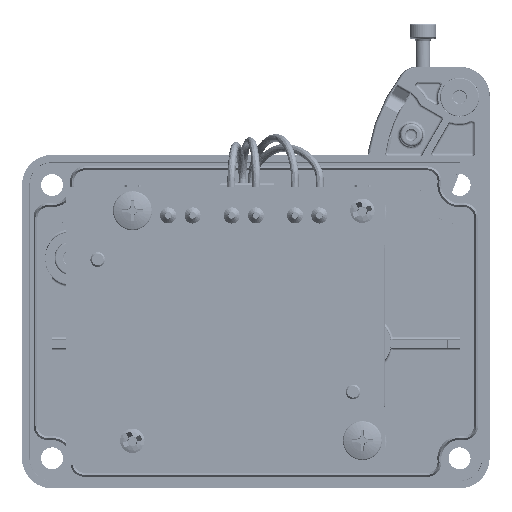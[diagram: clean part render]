
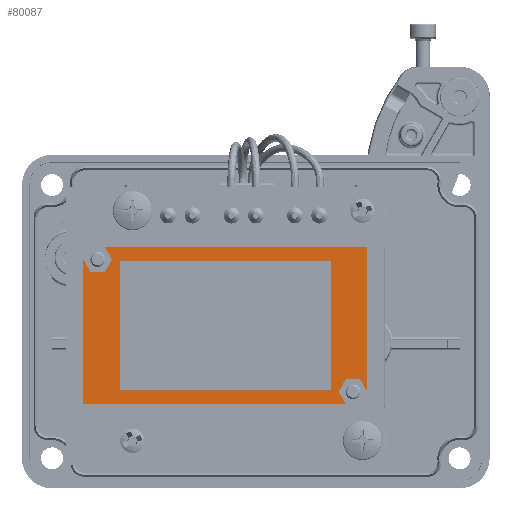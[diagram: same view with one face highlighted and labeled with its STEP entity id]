
A CAD part, top view. The second image highlights one B-rep face of the part: STEP entity #80087.
In plain terms, the highlighted planar face has unit normal (0, 0, 1).
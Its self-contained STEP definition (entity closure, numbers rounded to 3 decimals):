
#880 = LINE ( 'NONE', #261141, #260054 ) ;
#4415 = DIRECTION ( 'NONE',  ( 0.5, -0.866, 0. ) ) ;
#4665 = ORIENTED_EDGE ( 'NONE', *, *, #153360, .T. ) ;
#7986 = CARTESIAN_POINT ( 'NONE',  ( -27.885, 12.13, 114.8 ) ) ;
#9295 = CARTESIAN_POINT ( 'NONE',  ( 17.041, -14.458, 114.8 ) ) ;
#12241 = EDGE_CURVE ( 'NONE', #216409, #195492, #87916, .T. ) ;
#12798 = EDGE_CURVE ( 'NONE', #33296, #82393, #228099, .T. ) ;
#16697 = LINE ( 'NONE', #185700, #57253 ) ;
#18635 = DIRECTION ( 'NONE',  ( -0.5, 0.866, 0. ) ) ;
#18698 = ORIENTED_EDGE ( 'NONE', *, *, #95805, .F. ) ;
#20607 = CARTESIAN_POINT ( 'NONE',  ( 5.306, 5.643, 114.8 ) ) ;
#20925 = CARTESIAN_POINT ( 'NONE',  ( -29.446, 12.53, 114.8 ) ) ;
#22321 = ORIENTED_EDGE ( 'NONE', *, *, #233010, .T. ) ;
#31457 = DIRECTION ( 'NONE',  ( -0.5, -0.866, 0. ) ) ;
#33296 = VERTEX_POINT ( 'NONE', #247001 ) ;
#34111 = FACE_OUTER_BOUND ( 'NONE', #65690, .T. ) ;
#39479 = DIRECTION ( 'NONE',  ( 0., 1., 0. ) ) ;
#39496 = EDGE_CURVE ( 'NONE', #82393, #209476, #131361, .T. ) ;
#40629 = CARTESIAN_POINT ( 'NONE',  ( -27.885, 12.13, 114.8 ) ) ;
#43900 = ORIENTED_EDGE ( 'NONE', *, *, #79235, .T. ) ;
#45645 = LINE ( 'NONE', #127483, #251678 ) ;
#49103 = VERTEX_POINT ( 'NONE', #254863 ) ;
#49745 = VERTEX_POINT ( 'NONE', #196573 ) ;
#50927 = LINE ( 'NONE', #112726, #197218 ) ;
#52021 = CARTESIAN_POINT ( 'NONE',  ( -33.863, 9.98, 114.8 ) ) ;
#55570 = FACE_BOUND ( 'NONE', #198378, .T. ) ;
#56979 = VECTOR ( 'NONE', #220428, 1000. ) ;
#57253 = VECTOR ( 'NONE', #39479, 1000. ) ;
#59084 = EDGE_CURVE ( 'NONE', #198280, #216409, #880, .T. ) ;
#65690 = EDGE_LOOP ( 'NONE', ( #200952, #191250, #185635, #184161, #232923, #43900, #238076, #221525, #22321, #264346, #259308, #4665 ) ) ;
#66040 = ORIENTED_EDGE ( 'NONE', *, *, #146905, .F. ) ;
#66865 = LINE ( 'NONE', #190231, #200871 ) ;
#69742 = VECTOR ( 'NONE', #93780, 1000. ) ;
#69815 = DIRECTION ( 'NONE',  ( -1., 0., 0. ) ) ;
#72499 = CARTESIAN_POINT ( 'NONE',  ( -35.335, -17.12, 114.8 ) ) ;
#72983 = VERTEX_POINT ( 'NONE', #158817 ) ;
#75474 = VECTOR ( 'NONE', #247125, 1000. ) ;
#76216 = VERTEX_POINT ( 'NONE', #166507 ) ;
#77056 = PLANE ( 'NONE',  #260486 ) ;
#78473 = EDGE_CURVE ( 'NONE', #90198, #33296, #99201, .T. ) ;
#79235 = EDGE_CURVE ( 'NONE', #227757, #49103, #45645, .T. ) ;
#80087 = ADVANCED_FACE ( 'NONE', ( #55570, #34111 ), #77056, .T. ) ;
#80351 = CARTESIAN_POINT ( 'NONE',  ( 22.865, 15.08, 114.8 ) ) ;
#82005 = DIRECTION ( 'NONE',  ( -1., 0., 0. ) ) ;
#82393 = VERTEX_POINT ( 'NONE', #261145 ) ;
#87541 = CARTESIAN_POINT ( 'NONE',  ( -27.885, -14.17, 114.8 ) ) ;
#87916 = LINE ( 'NONE', #230049, #108417 ) ;
#90198 = VERTEX_POINT ( 'NONE', #230748 ) ;
#91000 = VERTEX_POINT ( 'NONE', #144426 ) ;
#93780 = DIRECTION ( 'NONE',  ( 0., 1., 0. ) ) ;
#95415 = EDGE_CURVE ( 'NONE', #209476, #49745, #185619, .T. ) ;
#95805 = EDGE_CURVE ( 'NONE', #202771, #72983, #66865, .T. ) ;
#99201 = LINE ( 'NONE', #206382, #229919 ) ;
#103724 = LINE ( 'NONE', #40629, #56979 ) ;
#107394 = CARTESIAN_POINT ( 'NONE',  ( -6.235, -12.02, 114.8 ) ) ;
#108417 = VECTOR ( 'NONE', #132029, 1000. ) ;
#112726 = CARTESIAN_POINT ( 'NONE',  ( -33.863, 9.98, 114.8 ) ) ;
#113365 = DIRECTION ( 'NONE',  ( 0., 0., 1. ) ) ;
#121136 = CARTESIAN_POINT ( 'NONE',  ( -35.335, -17.12, 114.8 ) ) ;
#127483 = CARTESIAN_POINT ( 'NONE',  ( -35.335, 15.08, 114.8 ) ) ;
#128133 = CARTESIAN_POINT ( 'NONE',  ( -35.335, 12.53, 114.8 ) ) ;
#131361 = LINE ( 'NONE', #9295, #233792 ) ;
#132029 = DIRECTION ( 'NONE',  ( 0., -1., 0. ) ) ;
#134142 = LINE ( 'NONE', #72499, #171108 ) ;
#138719 = DIRECTION ( 'NONE',  ( 1., 0., 0. ) ) ;
#140016 = CARTESIAN_POINT ( 'NONE',  ( 16.976, -14.57, 114.8 ) ) ;
#143233 = EDGE_CURVE ( 'NONE', #76216, #91000, #241194, .T. ) ;
#144426 = CARTESIAN_POINT ( 'NONE',  ( 15.415, 12.13, 114.8 ) ) ;
#145403 = VERTEX_POINT ( 'NONE', #20925 ) ;
#146905 = EDGE_CURVE ( 'NONE', #72983, #76216, #182837, .T. ) ;
#147474 = ORIENTED_EDGE ( 'NONE', *, *, #143233, .F. ) ;
#153360 = EDGE_CURVE ( 'NONE', #195492, #49745, #134142, .T. ) ;
#154263 = DIRECTION ( 'NONE',  ( 1., 0., 0. ) ) ;
#156749 = VECTOR ( 'NONE', #260703, 1000. ) ;
#157478 = CARTESIAN_POINT ( 'NONE',  ( -29.446, 12.53, 114.8 ) ) ;
#158817 = CARTESIAN_POINT ( 'NONE',  ( -27.885, -14.17, 114.8 ) ) ;
#161509 = EDGE_CURVE ( 'NONE', #145403, #264452, #230149, .T. ) ;
#166507 = CARTESIAN_POINT ( 'NONE',  ( 15.415, -14.17, 114.8 ) ) ;
#171108 = VECTOR ( 'NONE', #154263, 1000. ) ;
#172945 = DIRECTION ( 'NONE',  ( -0.5, -0.866, 0. ) ) ;
#176115 = EDGE_CURVE ( 'NONE', #90198, #227757, #16697, .T. ) ;
#182837 = LINE ( 'NONE', #87541, #75474 ) ;
#184161 = ORIENTED_EDGE ( 'NONE', *, *, #78473, .F. ) ;
#185619 = LINE ( 'NONE', #20607, #243554 ) ;
#185635 = ORIENTED_EDGE ( 'NONE', *, *, #12798, .F. ) ;
#185700 = CARTESIAN_POINT ( 'NONE',  ( 22.865, 15.08, 114.8 ) ) ;
#185886 = EDGE_CURVE ( 'NONE', #91000, #202771, #103724, .T. ) ;
#189627 = VECTOR ( 'NONE', #31457, 1000. ) ;
#190231 = CARTESIAN_POINT ( 'NONE',  ( -27.885, 12.13, 114.8 ) ) ;
#191250 = ORIENTED_EDGE ( 'NONE', *, *, #39496, .F. ) ;
#193446 = CARTESIAN_POINT ( 'NONE',  ( -30.918, 9.98, 114.8 ) ) ;
#195492 = VERTEX_POINT ( 'NONE', #121136 ) ;
#196573 = CARTESIAN_POINT ( 'NONE',  ( 18.448, -17.12, 114.8 ) ) ;
#197218 = VECTOR ( 'NONE', #69815, 1000. ) ;
#198280 = VERTEX_POINT ( 'NONE', #52021 ) ;
#198378 = EDGE_LOOP ( 'NONE', ( #66040, #18698, #237398, #147474 ) ) ;
#198532 = VECTOR ( 'NONE', #230730, 1000. ) ;
#200871 = VECTOR ( 'NONE', #202745, 1000. ) ;
#200952 = ORIENTED_EDGE ( 'NONE', *, *, #95415, .F. ) ;
#202745 = DIRECTION ( 'NONE',  ( 0., -1., 0. ) ) ;
#202771 = VERTEX_POINT ( 'NONE', #7986 ) ;
#206382 = CARTESIAN_POINT ( 'NONE',  ( 9.723, 8.193, 114.8 ) ) ;
#209369 = EDGE_CURVE ( 'NONE', #49103, #145403, #258072, .T. ) ;
#209476 = VERTEX_POINT ( 'NONE', #140016 ) ;
#211347 = CARTESIAN_POINT ( 'NONE',  ( -30.918, 9.98, 114.8 ) ) ;
#216409 = VERTEX_POINT ( 'NONE', #128133 ) ;
#220428 = DIRECTION ( 'NONE',  ( -1., 0., 0. ) ) ;
#221525 = ORIENTED_EDGE ( 'NONE', *, *, #161509, .T. ) ;
#227757 = VERTEX_POINT ( 'NONE', #80351 ) ;
#228099 = LINE ( 'NONE', #107394, #198532 ) ;
#229919 = VECTOR ( 'NONE', #18635, 1000. ) ;
#230049 = CARTESIAN_POINT ( 'NONE',  ( -35.335, 15.08, 114.8 ) ) ;
#230149 = LINE ( 'NONE', #211347, #189627 ) ;
#230730 = DIRECTION ( 'NONE',  ( -1., 0., 0. ) ) ;
#230748 = CARTESIAN_POINT ( 'NONE',  ( 22.865, -14.57, 114.8 ) ) ;
#232923 = ORIENTED_EDGE ( 'NONE', *, *, #176115, .T. ) ;
#233010 = EDGE_CURVE ( 'NONE', #264452, #198280, #50927, .T. ) ;
#233792 = VECTOR ( 'NONE', #172945, 1000. ) ;
#237398 = ORIENTED_EDGE ( 'NONE', *, *, #185886, .F. ) ;
#238076 = ORIENTED_EDGE ( 'NONE', *, *, #209369, .T. ) ;
#238551 = CARTESIAN_POINT ( 'NONE',  ( 15.415, 12.13, 114.8 ) ) ;
#240679 = CARTESIAN_POINT ( 'NONE',  ( -6.235, -1.02, 114.8 ) ) ;
#241194 = LINE ( 'NONE', #238551, #69742 ) ;
#243554 = VECTOR ( 'NONE', #4415, 1000. ) ;
#243676 = DIRECTION ( 'NONE',  ( -0.5, 0.866, 0. ) ) ;
#247001 = CARTESIAN_POINT ( 'NONE',  ( 21.393, -12.02, 114.8 ) ) ;
#247125 = DIRECTION ( 'NONE',  ( 1., 0., 0. ) ) ;
#251678 = VECTOR ( 'NONE', #82005, 1000. ) ;
#254863 = CARTESIAN_POINT ( 'NONE',  ( -30.918, 15.08, 114.8 ) ) ;
#258072 = LINE ( 'NONE', #157478, #156749 ) ;
#259308 = ORIENTED_EDGE ( 'NONE', *, *, #12241, .T. ) ;
#260054 = VECTOR ( 'NONE', #243676, 1000. ) ;
#260486 = AXIS2_PLACEMENT_3D ( 'NONE', #240679, #113365, #138719 ) ;
#260703 = DIRECTION ( 'NONE',  ( 0.5, -0.866, 0. ) ) ;
#261141 = CARTESIAN_POINT ( 'NONE',  ( -35.335, 12.53, 114.8 ) ) ;
#261145 = CARTESIAN_POINT ( 'NONE',  ( 18.448, -12.02, 114.8 ) ) ;
#264346 = ORIENTED_EDGE ( 'NONE', *, *, #59084, .T. ) ;
#264452 = VERTEX_POINT ( 'NONE', #193446 ) ;
